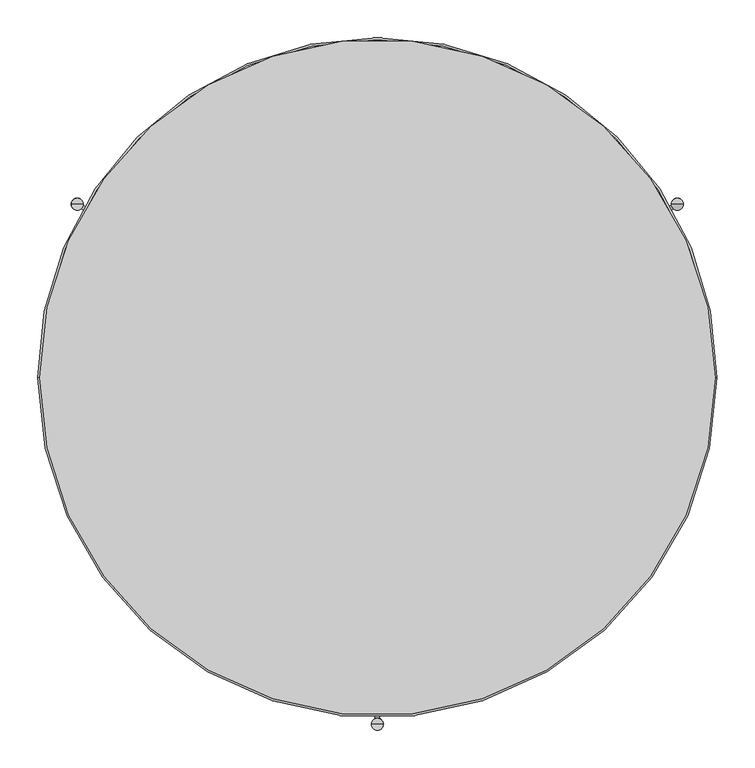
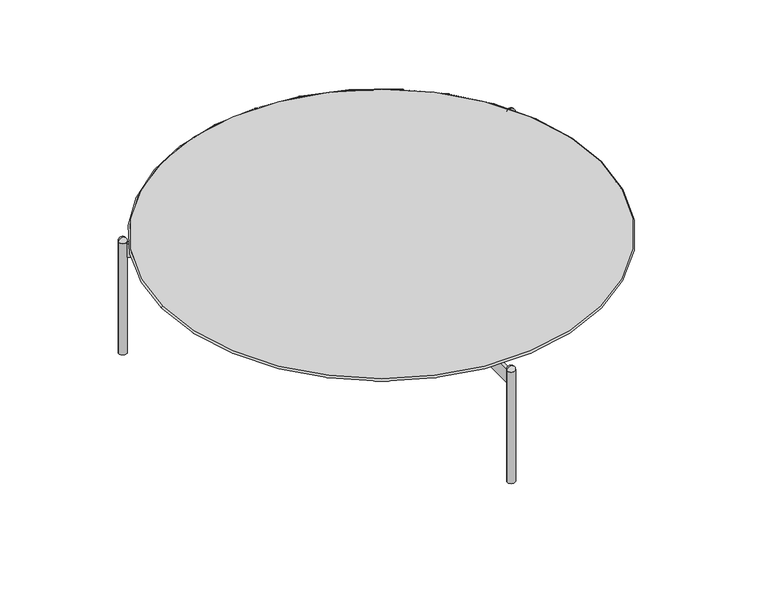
"""IFC4 building model written with IfcOpenShell, lengths in millimetres: furniture geometry, ROUND TABLE_H=25 : EI125B050090A_L."""

import ifcopenshell
import ifcopenshell.guid

model = None  # the IFC model being written
_history = None  # IfcOwnerHistory: only IFC2X3 demands one
_inside = {}  # id of a spatial element -> (the spatial element, [elements in it])
_under = {}  # id of a project, library or spatial element -> (it, [spatial elements below it])
_declared = {}  # id of a project -> (the project, [libraries it declares])
_typed = {}  # id of a type object -> (the type object, [elements of that type])
_made_of = {}  # id of a material, layer set ... -> (it, [elements and type objects made of it])


def new_model(schema):
    """Start an empty IFC model of exactly this schema.

    Asked for "IFC4X3", IfcOpenShell would pick the latest addendum, in which some entities
    have other attributes; the version numbers below select the first issue.
    IFC2X3 requires an IfcOwnerHistory on every rooted entity: one is made here for all.
    """
    global model, _history
    if schema == "IFC4X3":
        model = ifcopenshell.file(schema_version=(4, 3, 0, 0))
    else:
        model = ifcopenshell.file(schema=schema)
    _inside.clear()
    _under.clear()
    _declared.clear()
    _typed.clear()
    _made_of.clear()
    _history = None
    if model.schema == "IFC2X3":
        org = make("IfcOrganization", Name="unknown")
        user = make(
            "IfcPersonAndOrganization",
            ThePerson=make("IfcPerson", FamilyName="unknown"),
            TheOrganization=org,
        )
        app = make(
            "IfcApplication",
            ApplicationDeveloper=org,
            Version="unknown",
            ApplicationFullName="unknown",
            ApplicationIdentifier="unknown",
        )
        _history = make(
            "IfcOwnerHistory",
            OwningUser=user,
            OwningApplication=app,
            ChangeAction="ADDED",
            CreationDate=0,
        )
    return model


def make(cls, **values):
    """One entity of the class cls with the attributes given. An attribute that is None is left unset."""
    return model.create_entity(
        cls, **{name: value for name, value in values.items() if value is not None}
    )


def rooted(cls, **values):
    """An entity with a GlobalId (a new one), such as an element, a storey or a relation."""
    return make(cls, GlobalId=ifcopenshell.guid.new(), OwnerHistory=_history, **values)


def si_unit(unit_type, name, prefix=None):
    """IfcSIUnit, for example si_unit("LENGTHUNIT", "METRE", prefix="MILLI")."""
    return make("IfcSIUnit", UnitType=unit_type, Prefix=prefix, Name=name)


def assignment(units):
    """IfcUnitAssignment: the units of a project."""
    return None if units is None else make("IfcUnitAssignment", Units=units)


def point(xyz):
    """IfcCartesianPoint."""
    return None if xyz is None else make("IfcCartesianPoint", Coordinates=xyz)


def direction(xyz):
    """IfcDirection."""
    return None if xyz is None else make("IfcDirection", DirectionRatios=xyz)


def frame(location, z_axis=None, x_axis=None):
    """IfcAxis2Placement3D, a coordinate frame: its origin and axes. An axis left out is left unset."""
    return make(
        "IfcAxis2Placement3D",
        Location=point(location),
        Axis=direction(z_axis),
        RefDirection=direction(x_axis),
    )


def frame_2d(location, x_axis=None):
    """IfcAxis2Placement2D, a coordinate frame in the plane: its origin and x axis."""
    return make(
        "IfcAxis2Placement2D", Location=point(location), RefDirection=direction(x_axis)
    )


def origin():
    """The frame at (0, 0, 0) with its axes left unset."""
    return frame((0.0, 0.0, 0.0))


def origin_with_axes():
    """The frame at (0, 0, 0) with the z axis (0, 0, 1) and the x axis (1, 0, 0) written out."""
    return frame((0.0, 0.0, 0.0), z_axis=(0.0, 0.0, 1.0), x_axis=(1.0, 0.0, 0.0))


def origin_2d():
    """The frame at (0, 0) in the plane with its x axis left unset."""
    return frame_2d((0.0, 0.0))


def place(relative_to, where):
    """IfcLocalPlacement: puts the frame where relative to a parent placement (None: the world)."""
    return make(
        "IfcLocalPlacement", PlacementRelTo=relative_to, RelativePlacement=where
    )


def context(
    kind, dimensions, precision=None, world=None, true_north=None, identifier=None
):
    """IfcGeometricRepresentationContext, for example the 3D "Model" context."""
    return make(
        "IfcGeometricRepresentationContext",
        ContextIdentifier=identifier,
        ContextType=kind,
        CoordinateSpaceDimension=dimensions,
        Precision=precision,
        WorldCoordinateSystem=world,
        TrueNorth=true_north,
    )


def project(units=None, contexts=None):
    """IfcProject with its units and contexts."""
    return rooted(
        "IfcProject",
        Name="project",
        RepresentationContexts=contexts,
        UnitsInContext=assignment(units),
    )


def spatial(cls, under=None, at=None, **own):
    """A site, building, storey or space (cls), placed at a placement, below another one or the project."""
    s = rooted(cls, ObjectPlacement=at, **own)
    if under is not None:
        _under.setdefault(under.id(), (under, []))[1].append(s)
    return s


def polyline(points):
    """IfcPolyline through the points."""
    return make("IfcPolyline", Points=[point(p) for p in points])


def circle_curve(where, radius):
    """IfcCircle in the frame where."""
    return make("IfcCircle", Position=where, Radius=radius)


def ellipse_curve(where, semi_axis1, semi_axis2):
    """IfcEllipse in the frame where."""
    return make(
        "IfcEllipse", Position=where, SemiAxis1=semi_axis1, SemiAxis2=semi_axis2
    )


def trimmed(basis, trim1, trim2, sense, master):
    """IfcTrimmedCurve: the piece of a basis curve between two trims."""
    return make(
        "IfcTrimmedCurve",
        BasisCurve=basis,
        Trim1=trim1,
        Trim2=trim2,
        SenseAgreement=sense,
        MasterRepresentation=master,
    )


def segment(curve, same_sense, transition):
    """IfcCompositeCurveSegment."""
    return make(
        "IfcCompositeCurveSegment",
        Transition=transition,
        SameSense=same_sense,
        ParentCurve=curve,
    )


def composite_curve(segments, self_intersect=None):
    """IfcCompositeCurve: segments joined end to end."""
    return make("IfcCompositeCurve", Segments=segments, SelfIntersect=self_intersect)


def outline(outer, holes=None, kind="AREA"):
    """IfcArbitraryClosedProfileDef: a profile drawn as a closed curve; with holes, ...WithVoids."""
    if holes is None:
        return make("IfcArbitraryClosedProfileDef", ProfileType=kind, OuterCurve=outer)
    return make(
        "IfcArbitraryProfileDefWithVoids",
        ProfileType=kind,
        OuterCurve=outer,
        InnerCurves=holes,
    )


def extrude(swept, where, along, depth):
    """IfcExtrudedAreaSolid: the profile swept, set in the frame where, extruded along a direction by depth."""
    return make(
        "IfcExtrudedAreaSolid",
        SweptArea=swept,
        Position=where,
        ExtrudedDirection=direction(along),
        Depth=depth,
    )


def shape(context_of_items, identifier, shape_type, items):
    """IfcShapeRepresentation: the items that make up one representation, for example the "Body"."""
    return make(
        "IfcShapeRepresentation",
        ContextOfItems=context_of_items,
        RepresentationIdentifier=identifier,
        RepresentationType=shape_type,
        Items=items,
    )


def source(mapping_origin, context_of_items, identifier, shape_type, items):
    """IfcRepresentationMap: a shape defined once, which mapped items show again and again."""
    return make(
        "IfcRepresentationMap",
        MappingOrigin=mapping_origin,
        MappedRepresentation=shape(context_of_items, identifier, shape_type, items),
    )


def transform(
    local_origin,
    x_axis=None,
    y_axis=None,
    z_axis=None,
    scale=None,
    scale2=None,
    scale3=None,
    uniform=True,
):
    """IfcCartesianTransformationOperator3D, or its non-uniform kind. x_axis, y_axis, z_axis: its Axis1, 2, 3."""
    if uniform:
        return make(
            "IfcCartesianTransformationOperator3D",
            Axis1=direction(x_axis),
            Axis2=direction(y_axis),
            LocalOrigin=point(local_origin),
            Scale=scale,
            Axis3=direction(z_axis),
        )
    return make(
        "IfcCartesianTransformationOperator3DnonUniform",
        Axis1=direction(x_axis),
        Axis2=direction(y_axis),
        LocalOrigin=point(local_origin),
        Scale=scale,
        Axis3=direction(z_axis),
        Scale2=scale2,
        Scale3=scale3,
    )


def mapped(mapping_source, mapping_target):
    """IfcMappedItem: shows the shape of a source again, moved by a transform."""
    return make(
        "IfcMappedItem", MappingSource=mapping_source, MappingTarget=mapping_target
    )


def made_of(thing, what):
    """Note that an element or type object is made of a material, layer set ...; save() writes the relation."""
    if what is not None:
        _made_of.setdefault(what.id(), (what, []))[1].append(thing)
    return thing


def element(
    cls,
    number,
    at=None,
    inside=None,
    cuts=None,
    type_object=None,
    material=None,
    context=None,
    identifier="Body",
    shape_type=None,
    held_by="IfcProductDefinitionShape",
    body=None,
    shapes=None,
    **own,
):
    """One element of the class cls, such as IfcWall. Its Tag is "e" and its number.

    at: its placement. inside: the storey or other place that contains it. cuts: it is an
    opening in that element (IfcRelVoidsElement). A single representation is given by context,
    identifier, shape_type and body (its items); several are given by shapes. held_by: the class
    of the entity that holds the representations. save() writes the other relations.
    """
    e = rooted(cls, Tag="e%d" % number, ObjectPlacement=at, **own)
    if body is not None:
        shapes = [shape(context, identifier, shape_type, body)]
    if shapes is not None:
        e.Representation = make(held_by, Representations=shapes)
    if inside is not None:
        _inside.setdefault(inside.id(), (inside, []))[1].append(e)
    if cuts is not None:
        rooted(
            "IfcRelVoidsElement", RelatingBuildingElement=cuts, RelatedOpeningElement=e
        )
    if type_object is not None:
        _typed.setdefault(type_object.id(), (type_object, []))[1].append(e)
    return made_of(e, material)


def aggregate(whole, parts):
    """IfcRelAggregates: a whole, such as a stair, and the parts it consists of."""
    return rooted("IfcRelAggregates", RelatingObject=whole, RelatedObjects=parts)


def save(model, path):
    """Write the relations noted so far, then the file.

    IfcRelAggregates (storeys below a building ...), IfcRelContainedInSpatialStructure (elements
    in a storey), IfcRelDefinesByType, IfcRelAssociatesMaterial and IfcRelDeclares: one each for
    every whole, place, type object, material and project.
    """
    for whole, parts in _under.values():
        aggregate(whole, parts)
    for where, things in _inside.values():
        rooted(
            "IfcRelContainedInSpatialStructure",
            RelatedElements=things,
            RelatingStructure=where,
        )
    for kind, things in _typed.values():
        rooted("IfcRelDefinesByType", RelatedObjects=things, RelatingType=kind)
    for what, things in _made_of.values():
        rooted("IfcRelAssociatesMaterial", RelatedObjects=things, RelatingMaterial=what)
    for by, libraries in _declared.values():
        rooted("IfcRelDeclares", RelatingContext=by, RelatedDefinitions=libraries)
    model.write(path)


def plane_surface(at):
    """IfcPlane: the flat surface through the origin of the frame at, square to its z axis."""
    return make("IfcPlane", Position=at)


def revolved_surface(curve, axis_point, axis_direction):
    """IfcSurfaceOfRevolution: the curve turned about the line through axis_point along axis_direction."""
    return make(
        "IfcSurfaceOfRevolution",
        SweptCurve=make("IfcArbitraryOpenProfileDef", ProfileType="CURVE", Curve=curve),
        AxisPosition=make("IfcAxis1Placement", Location=point(axis_point), Axis=direction(axis_direction)),
    )


def advanced_brep(points, edges, surfaces, faces):
    """IfcAdvancedBrep: a solid bounded by faces that lie on surfaces and meet in shared edges.

    An edge is (start, end): straight between two places in points (the first is 0);
    or (start, end, curve); or (start, end, curve, False) where it runs against its curve.
    A face is (place in surfaces, loops), or (place, loops, False) where it looks against
    its surface's normal. A loop lists edges by number (the first is 1), with a minus sign
    where the edge is run from its end to its start. The first loop is the outer one.
    """
    corners = [point(p) for p in points]
    vertices = [make("IfcVertexPoint", VertexGeometry=c) for c in corners]
    made = []
    for start, end, *more in edges:
        made.append(
            make(
                "IfcEdgeCurve",
                EdgeStart=vertices[start],
                EdgeEnd=vertices[end],
                EdgeGeometry=more[0] if more else make("IfcPolyline", Points=[corners[start], corners[end]]),
                SameSense=more[1] if len(more) > 1 else True,
            )
        )
    hull = []
    for where, loops, *sense in faces:
        bounds = []
        for j, loop in enumerate(loops):
            ring = [make("IfcOrientedEdge", EdgeElement=made[abs(k) - 1], Orientation=k > 0) for k in loop]
            bounds.append(
                make(
                    "IfcFaceOuterBound" if j == 0 else "IfcFaceBound",
                    Bound=make("IfcEdgeLoop", EdgeList=ring),
                    Orientation=True,
                )
            )
        hull.append(make("IfcAdvancedFace", Bounds=bounds, FaceSurface=surfaces[where], SameSense=sense[0] if sense else True))
    return make("IfcAdvancedBrep", Outer=make("IfcClosedShell", CfsFaces=hull))


def furniture_04b375e8(model_context):
    return source(origin(), model_context, "Body", "SolidModel", [
        advanced_brep(
        [(397.55, 229.6, 249.1666667), (389.55, 229.6, 241.1666667), (405.55, 229.6, 241.1666667), (397.55, 229.6, 241.1666667)],
        [
            (0, 1, circle_curve(frame((397.55, 229.6, 241.1666667), z_axis=(0.0, -1.0, 0.0), x_axis=(1.0, 0.0, 0.0)), 8.0)),
            (1, 2, circle_curve(frame((397.55, 229.6, 241.1666667), z_axis=(0.0, 0.0, 1.0), x_axis=(-1.0, 0.0, 0.0)), 8.0)),
            (2, 0, circle_curve(frame((397.55, 229.6, 241.1666667), z_axis=(0.0, -1.0, 0.0), x_axis=(-1.0, 0.0, 0.0)), 8.0)),
            (2, 1, circle_curve(frame((397.55, 229.6, 241.1666667), z_axis=(0.0, 0.0, 1.0), x_axis=(-1.0, 0.0, 0.0)), 8.0)),
            (1, 3),
            (3, 2),
        ],
        [
            revolved_surface(trimmed(ellipse_curve(frame((397.55, 229.6, 241.1666667), z_axis=(0.0, 1.0, 0.0), x_axis=(1.0, 0.0, 0.0)), 8.0, 8.0), [point((389.55, 229.6, 241.1666667))], [point((397.55, 229.6, 249.1666667))], True, "CARTESIAN"), (397.55, 229.6, 2438.4), (0.0, 0.0, 1.0)),
            plane_surface(frame((397.55, 229.6, 241.1666667), z_axis=(0.0, 0.0, -1.0), x_axis=(-1.0, 0.0, 0.0))),
        ],
        [
            (0, [[1, 2, 3]]),
            (0, [[-3, 4, -1]]),
            (1, [[-2, 5, 6]]),
            (1, [[-4, -6, -5]]),
        ],
    ),
        advanced_brep(
        [(397.55, 229.6, 249.1666667), (389.55, 229.6, 241.1666667), (405.55, 229.6, 241.1666667), (397.55, 229.6, 241.1666667)],
        [
            (0, 1, circle_curve(frame((397.55, 229.6, 241.1666667), z_axis=(0.0, -1.0, 0.0), x_axis=(1.0, 0.0, 0.0)), 8.0)),
            (1, 2, circle_curve(frame((397.55, 229.6, 241.1666667), z_axis=(0.0, 0.0, 1.0), x_axis=(-1.0, 0.0, 0.0)), 8.0)),
            (2, 0, circle_curve(frame((397.55, 229.6, 241.1666667), z_axis=(0.0, -1.0, 0.0), x_axis=(-1.0, 0.0, 0.0)), 8.0)),
            (2, 1, circle_curve(frame((397.55, 229.6, 241.1666667), z_axis=(0.0, 0.0, 1.0), x_axis=(-1.0, 0.0, 0.0)), 8.0)),
            (1, 3),
            (3, 2),
        ],
        [
            revolved_surface(trimmed(ellipse_curve(frame((397.55, 229.6, 241.1666667), z_axis=(0.0, 1.0, 0.0), x_axis=(1.0, 0.0, 0.0)), 8.0, 8.0), [point((389.55, 229.6, 241.1666667))], [point((397.55, 229.6, 249.1666667))], True, "CARTESIAN"), (397.55, 229.6, 2438.4), (0.0, 0.0, 1.0)),
            plane_surface(frame((397.55, 229.6, 241.1666667), z_axis=(0.0, 0.0, -1.0), x_axis=(-1.0, 0.0, 0.0))),
        ],
        [
            (0, [[1, 2, 3]]),
            (0, [[-3, 4, -1]]),
            (1, [[-2, 5, 6]]),
            (1, [[-4, -6, -5]]),
        ],
    ),
        advanced_brep(
        [(-405.55, 229.6, 241.1666667), (-389.55, 229.6, 241.1666667), (-397.55, 229.6, 249.1666667), (-397.55, 229.6, 241.1666667)],
        [
            (0, 1, circle_curve(frame((-397.55, 229.6, 241.1666667), z_axis=(0.0, 0.0, 1.0), x_axis=(1.0, 0.0, 0.0)), 8.0)),
            (1, 2, circle_curve(frame((-397.55, 229.6, 241.1666667), z_axis=(0.0, -1.0, 0.0), x_axis=(-1.0, 0.0, 0.0)), 8.0)),
            (2, 0, circle_curve(frame((-397.55, 229.6, 241.1666667), z_axis=(0.0, -1.0, 0.0), x_axis=(1.0, 0.0, 0.0)), 8.0)),
            (1, 0, circle_curve(frame((-397.55, 229.6, 241.1666667), z_axis=(0.0, 0.0, 1.0), x_axis=(1.0, 0.0, 0.0)), 8.0)),
            (3, 1),
            (0, 3),
        ],
        [
            revolved_surface(trimmed(ellipse_curve(frame((-397.55, 229.6, 241.1666667), z_axis=(0.0, 1.0, 0.0), x_axis=(-1.0, 0.0, 0.0)), 8.0, 8.0), [point((-397.55, 229.6, 249.1666667))], [point((-389.55, 229.6, 241.1666667))], True, "CARTESIAN"), (-397.55, 229.6, 2438.4), (0.0, 0.0, -1.0)),
            plane_surface(frame((-397.55, 229.6, 241.1666667), z_axis=(0.0, 0.0, -1.0), x_axis=(1.0, 0.0, 0.0))),
        ],
        [
            (0, [[1, 2, 3]]),
            (0, [[4, -3, -2]]),
            (1, [[5, -1, 6]]),
            (1, [[-6, -4, -5]]),
        ],
    ),
        advanced_brep(
        [(-8.025371, -459.0, 241.1666667), (7.974629, -459.0, 241.1666667), (-0.025371, -459.0, 249.1666667), (-0.025371, -459.0, 241.1666667)],
        [
            (0, 1, circle_curve(frame((-0.025371, -459.0, 241.1666667), z_axis=(0.0, 0.0, 1.0), x_axis=(1.0, 0.0, 0.0)), 8.0)),
            (1, 2, circle_curve(frame((-0.025371, -459.0, 241.1666667), z_axis=(0.0, -1.0, 0.0), x_axis=(-1.0, 0.0, 0.0)), 8.0)),
            (2, 0, circle_curve(frame((-0.025371, -459.0, 241.1666667), z_axis=(0.0, -1.0, 0.0), x_axis=(1.0, 0.0, 0.0)), 8.0)),
            (1, 0, circle_curve(frame((-0.025371, -459.0, 241.1666667), z_axis=(0.0, 0.0, 1.0), x_axis=(1.0, 0.0, 0.0)), 8.0)),
            (3, 1),
            (0, 3),
        ],
        [
            revolved_surface(trimmed(ellipse_curve(frame((-0.025371, -459.0, 241.1666667), z_axis=(0.0, 1.0, 0.0), x_axis=(-1.0, 0.0, 0.0)), 8.0, 8.0), [point((-0.025371, -459.0, 249.1666667))], [point((7.974629, -459.0, 241.1666667))], True, "CARTESIAN"), (-0.025371, -459.0, 2438.4), (0.0, 0.0, -1.0)),
            plane_surface(frame((-0.025371, -459.0, 241.1666667), z_axis=(0.0, 0.0, -1.0), x_axis=(1.0, 0.0, 0.0))),
        ],
        [
            (0, [[1, 2, 3]]),
            (0, [[4, -3, -2]]),
            (1, [[5, -1, 6]]),
            (1, [[-6, -4, -5]]),
        ],
    ),
        extrude(outline(composite_curve([segment(polyline([(-19.7129166, 7.9278768), (-392.6744849, 223.2573387)]), True, "CONTINUOUS"), segment(trimmed(circle_curve(frame_2d((-397.55, 229.6)), 8.0), [point((-392.6744849, 223.2573387))], [point((-389.6358441, 228.4311818))], True, "CARTESIAN"), True, "CONTINUOUS"), segment(polyline([(-389.6358441, 228.4311818), (-16.7129166, 13.1240293), (-19.7129166, 7.9278768)]), True, "CONTINUOUS")], self_intersect=False)), frame((0.0, 0.0, 207.6939464), z_axis=(0.0, 0.0, 1.0), x_axis=(1.0, 0.0, 0.0)), (0.0, 0.0, 1.0), 30.0),
        extrude(outline(composite_curve([segment(polyline([(19.7314855, 7.9171561), (16.7314855, 13.1133085), (389.6387851, 228.4114383)]), True, "CONTINUOUS"), segment(trimmed(circle_curve(frame_2d((397.55, 229.6)), 8.0), [point((389.6387851, 228.4114383))], [point((392.6904379, 223.2451077))], True, "CARTESIAN"), True, "CONTINUOUS"), segment(polyline([(392.6904379, 223.2451077), (19.7314855, 7.9171561)]), True, "CONTINUOUS")], self_intersect=False)), frame((0.0, 0.0, 207.6939464), z_axis=(0.0, 0.0, 1.0), x_axis=(1.0, 0.0, 0.0)), (0.0, 0.0, 1.0), 30.0),
        extrude(outline(composite_curve([segment(polyline([(3.0, -21.0411853), (3.0, -451.5838015)]), True, "CONTINUOUS"), segment(trimmed(circle_curve(frame_2d((0.0, -459.0)), 8.0), [point((3.0, -451.5838015))], [point((-3.0, -451.5838015))], True, "CARTESIAN"), True, "CONTINUOUS"), segment(polyline([(-3.0, -451.5838015), (-3.0, -21.0411853), (3.0, -21.0411853)]), True, "CONTINUOUS")], self_intersect=False)), frame((0.0, 0.0, 207.6939464), z_axis=(0.0, 0.0, 1.0), x_axis=(1.0, 0.0, 0.0)), (0.0, 0.0, 1.0), 30.0),
        extrude(outline(composite_curve([segment(trimmed(circle_curve(origin_2d(), 23.0), [point((-23.0, 0.0))], [point((23.0, 0.0))], False, "CARTESIAN"), True, "CONTINUOUS"), segment(trimmed(circle_curve(origin_2d(), 23.0), [point((23.0, 0.0))], [point((-23.0, 0.0))], False, "CARTESIAN"), True, "CONTINUOUS")], self_intersect=False)), frame((0.0, 0.0, 207.6939464), z_axis=(0.0, 0.0, 1.0), x_axis=(1.0, 0.0, 0.0)), (0.0, 0.0, 1.0), 30.0),
        extrude(outline(composite_curve([segment(trimmed(circle_curve(frame_2d((-397.55, 229.6)), 8.0), [point((-405.55, 229.6))], [point((-389.55, 229.6))], False, "CARTESIAN"), True, "CONTINUOUS"), segment(trimmed(circle_curve(frame_2d((-397.55, 229.6)), 8.0), [point((-389.55, 229.6))], [point((-405.55, 229.6))], False, "CARTESIAN"), True, "CONTINUOUS")], self_intersect=False)), origin_with_axes(), (0.0, 0.0, 1.0), 241.1666667),
        extrude(outline(composite_curve([segment(trimmed(circle_curve(frame_2d((397.55, 229.6)), 8.0), [point((389.55, 229.6))], [point((405.55, 229.6))], False, "CARTESIAN"), True, "CONTINUOUS"), segment(trimmed(circle_curve(frame_2d((397.55, 229.6)), 8.0), [point((405.55, 229.6))], [point((389.55, 229.6))], False, "CARTESIAN"), True, "CONTINUOUS")], self_intersect=False)), origin_with_axes(), (0.0, 0.0, 1.0), 241.1666667),
        extrude(outline(composite_curve([segment(trimmed(circle_curve(frame_2d((0.0, -459.0)), 8.0), [point((-8.0, -459.0))], [point((8.0, -459.0))], False, "CARTESIAN"), True, "CONTINUOUS"), segment(trimmed(circle_curve(frame_2d((0.0, -459.0)), 8.0), [point((8.0, -459.0))], [point((-8.0, -459.0))], False, "CARTESIAN"), True, "CONTINUOUS")], self_intersect=False)), origin_with_axes(), (0.0, 0.0, 1.0), 241.1666667),
        advanced_brep(
        [(-447.5, 0.0, 256.6939464), (447.5, 0.0, 256.6939464), (421.7931495, 0.0, 237.6939464), (-421.7931495, 0.0, 237.6939464), (-448.6736789, 0.0, 251.9865774), (448.6736789, 0.0, 251.9865774), (450.0, 0.0, 254.1939464), (-450.0, 0.0, 254.1939464)],
        [
            (0, 1, circle_curve(frame((0.0, 0.0, 256.6939464), z_axis=(0.0, 0.0, 1.0), x_axis=(-1.0, 0.0, 0.0)), 447.5)),
            (1, 0, circle_curve(frame((0.0, 0.0, 256.6939464), z_axis=(0.0, 0.0, 1.0), x_axis=(1.0, 0.0, 0.0)), 447.5)),
            (2, 3, circle_curve(frame((0.0, 0.0, 237.6939464), z_axis=(0.0, 0.0, -1.0), x_axis=(-1.0, 0.0, 0.0)), 421.7931495)),
            (3, 2, circle_curve(frame((0.0, 0.0, 237.6939464), z_axis=(0.0, 0.0, -1.0), x_axis=(1.0, 0.0, 0.0)), 421.7931495)),
            (4, 5, circle_curve(frame((0.0, 0.0, 251.9865774), z_axis=(0.0, 0.0, 1.0), x_axis=(-1.0, 0.0, 0.0)), 448.6736789)),
            (5, 6, circle_curve(frame((447.5, 0.0, 254.1939464), z_axis=(0.0, -1.0, 0.0), x_axis=(-1.0, 0.0, 0.0)), 2.5)),
            (6, 1, circle_curve(frame((447.5, 0.0, 254.1939464), z_axis=(0.0, -1.0, 0.0), x_axis=(-1.0, 0.0, 0.0)), 2.5)),
            (0, 7, circle_curve(frame((-447.5, 0.0, 254.1939464), z_axis=(0.0, -1.0, 0.0), x_axis=(1.0, 0.0, 0.0)), 2.5)),
            (7, 4, circle_curve(frame((-447.5, 0.0, 254.1939464), z_axis=(0.0, -1.0, 0.0), x_axis=(1.0, 0.0, 0.0)), 2.5)),
            (4, 3),
            (2, 5),
            (5, 4, circle_curve(frame((0.0, 0.0, 251.9865774), z_axis=(0.0, 0.0, 1.0), x_axis=(1.0, 0.0, 0.0)), 448.6736789)),
        ],
        [
            plane_surface(frame((450.0, 0.0, 256.6939464), z_axis=(0.0, 0.0, 1.0), x_axis=(0.0, 1.0, 0.0))),
            plane_surface(frame((450.0, 0.0, 237.6939464), z_axis=(0.0, 0.0, -1.0), x_axis=(0.0, -1.0, 0.0))),
            revolved_surface(trimmed(ellipse_curve(frame((-447.5, 0.0, 254.1939464), z_axis=(0.0, 1.0, 0.0), x_axis=(1.0, 0.0, 0.0)), 2.5, 2.5), [point((-448.6736789, 0.0, 251.9865774))], [point((-447.5, 0.0, 256.6939464))], True, "CARTESIAN"), (0.0, 0.0, 237.6939464), (0.0, 0.0, 1.0)),
            revolved_surface(polyline([(-421.7931495, 0.0, 237.6939464), (-448.6736789, 0.0, 251.9865774)]), (0.0, 0.0, 237.6939464), (0.0, 0.0, 1.0)),
            revolved_surface(trimmed(ellipse_curve(frame((447.5, 0.0, 254.1939464), z_axis=(0.0, -1.0, 0.0), x_axis=(-1.0, 0.0, 0.0)), 2.5, 2.5), [point((448.6736789, 0.0, 251.9865774))], [point((447.5, 0.0, 256.6939464))], True, "CARTESIAN"), (0.0, 0.0, 237.6939464), (0.0, 0.0, 1.0)),
            revolved_surface(polyline([(421.7931495, 0.0, 237.6939464), (448.6736789, 0.0, 251.9865774)]), (0.0, 0.0, 237.6939464), (0.0, 0.0, 1.0)),
        ],
        [
            (0, [[1, 2]]),
            (1, [[3, 4]]),
            (2, [[5, 6, 7, -1, 8, 9]]),
            (3, [[-5, 10, -3, 11]]),
            (4, [[12, -9, -8, -2, -7, -6]]),
            (5, [[-11, -4, -10, -12]]),
        ],
    ),
    ])


if __name__ == "__main__":
    model = new_model("IFC4")
    model_context = context("Model", 3, world=origin())
    ifc_project = project(units=[si_unit("LENGTHUNIT", "METRE", prefix="MILLI")], contexts=[model_context])
    site = spatial("IfcSite", under=ifc_project)
    building = spatial("IfcBuilding", under=site)
    placement = place(None, origin())
    furniture_shape = furniture_04b375e8(model_context)
    element("IfcFurniture", 1, ObjectType="ROUND TABLE_H=25 : EI125B050090A_L", at=placement, inside=building, context=model_context, shape_type="MappedRepresentation", body=[
        mapped(furniture_shape, transform((0.0, 0.0, 0.0), x_axis=(1.0, 0.0, 0.0), y_axis=(0.0, 1.0, 0.0), z_axis=(0.0, 0.0, 1.0))),
    ])
    save(model, "model.ifc")
